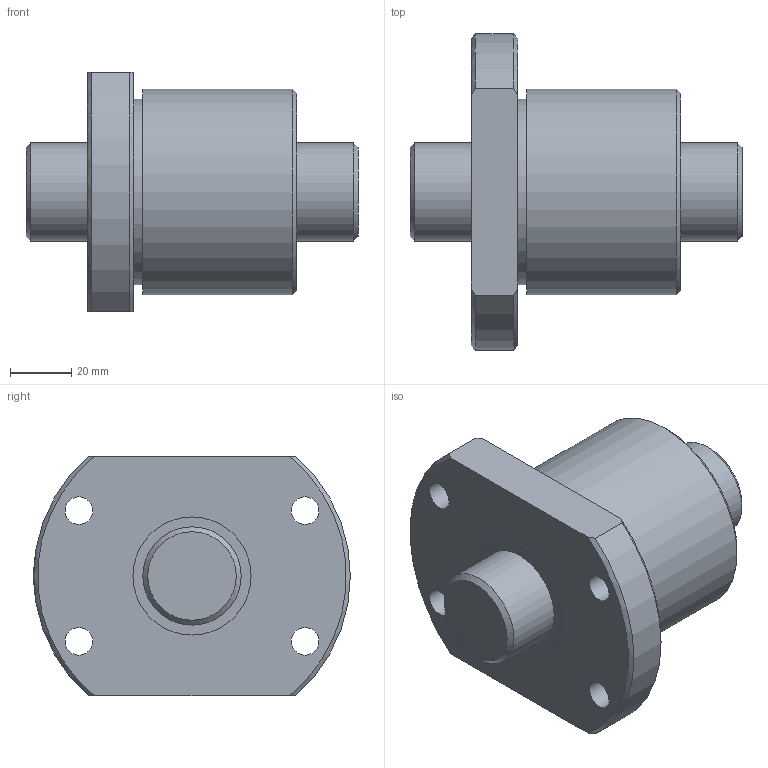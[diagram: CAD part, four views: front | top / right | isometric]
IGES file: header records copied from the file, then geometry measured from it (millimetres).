
Start section: Data from Parasolid IGES Translator 26.0.171, Copyright(c) 2006 Siemens PLM Software. All Rights Reserved.
Global section: file name: BTK3210V-2.6ZZ+108LC7T_000.igs; native system: By Siemens PLM Incorporated; preprocessor: XPlus GENERIC/IGES 26.0.171; author: Noname; organization: Noname; date: 20250116.075755; units: millimetre
Bounding box: 108 x 103 x 78 mm (x, y, z)
Surface area: 50217.7 mm2 (no closed solid volume)
Topology: 0 solids, 0 shells, 31 faces, 136 edges, 117 vertices
Faces by surface type: revolution 21, extrusion 10
